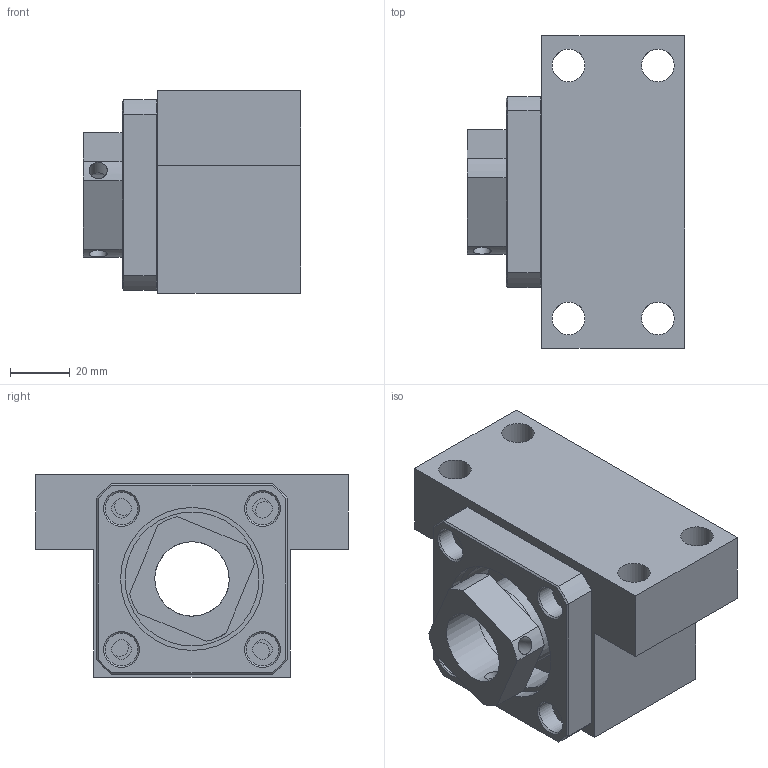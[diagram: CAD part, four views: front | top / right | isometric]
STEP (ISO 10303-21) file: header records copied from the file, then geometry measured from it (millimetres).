
FILE_DESCRIPTION(/* description */ (''),/* implementation_level */ '2;1');
FILE_NAME(/* name */ 'AK25.stp',/* time_stamp */ '2019-07-30T18:35:02+08:00',/* author */ (''),/* organization */ (''),/* preprocessor_version */ 'ST-DEVELOPER v14',/* originating_system */ 'SIEMENS PLM Software NX 8.0',/* authorisation */ '');
FILE_SCHEMA (('AUTOMOTIVE_DESIGN { 1 0 10303 214 3 1 1 1 }'));
Length unit declared in the file: millimetre
Products named in the file (6): AK25-LID; AK25-A; GT-30-25-14; M25; 7205; AK25
Assembly tree (7 placements, depth 2):
  AK25
    7205  x2
    M25
    GT-30-25-14  x2
    AK25-A
    AK25-LID
Bounding box: 73 x 105 x 68 mm (x, y, z)
Volume: 252301.5 mm3; surface area: 72549.4 mm2
Topology: 7 solids, 7 shells, 109 faces, 227 edges, 145 vertices
Faces by surface type: plane 51, cylinder 42, cone 16
Full cylindrical faces by diameter (mm): 6 x6, 6.5 x4, 11 x8, 25 x5, 30 x2, 33 x1, 40 x1, 45 x1, 48 x1, 52 x4, 53 x1
Entity records: 2948 total; most frequent: CARTESIAN_POINT 689, DIRECTION 458, ORIENTED_EDGE 344, AXIS2_PLACEMENT_3D 197, EDGE_LOOP 182, EDGE_CURVE 172, FACE_BOUND 143, VERTEX_POINT 132
